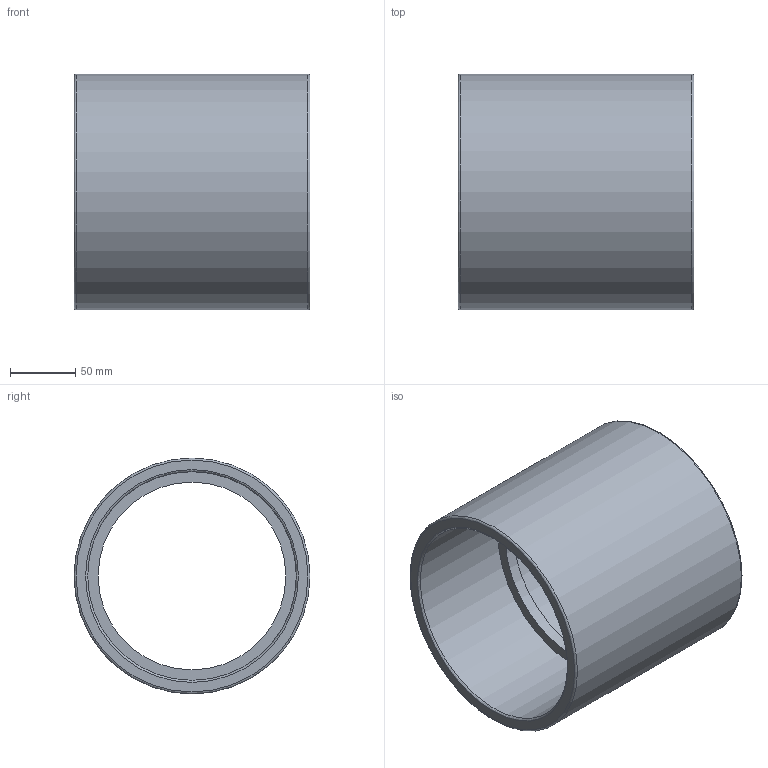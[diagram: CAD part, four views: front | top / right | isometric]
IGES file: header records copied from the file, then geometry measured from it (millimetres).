
Global section: file name: 050100160.ipt; native system: Autodesk Inventor 2015; preprocessor: unknown; author: KIM; date: 20171207.164022; units: millimetre
Bounding box: 181 x 181 x 181 mm (x, y, z)
Volume: 1051191.3 mm3; surface area: 210867.3 mm2
Topology: 1 solids, 1 shells, 12 faces, 34 edges, 26 vertices
Faces by surface type: revolution 7, plane 4, cylinder 1
Full cylindrical faces by diameter (mm): 181 x1
